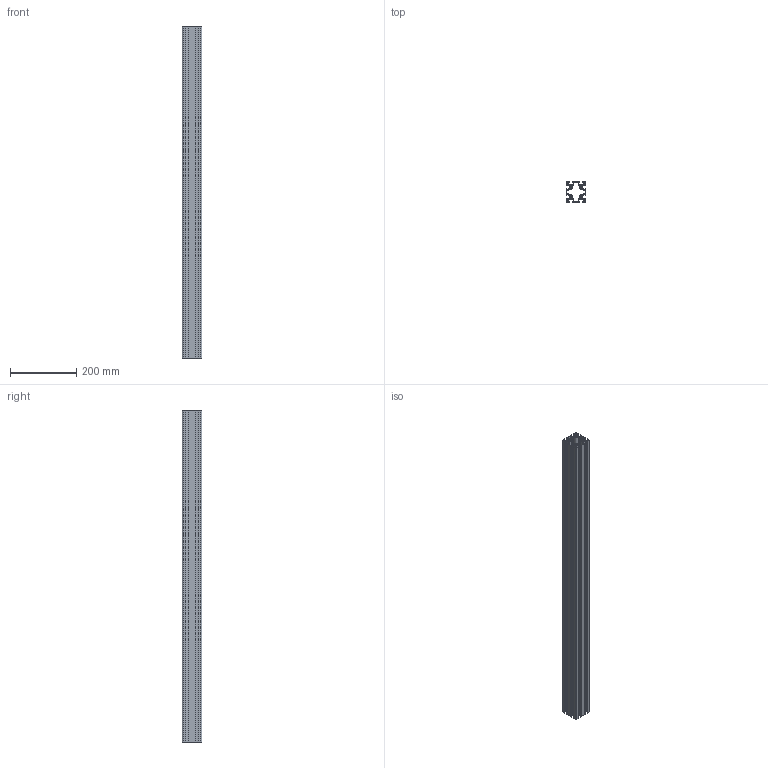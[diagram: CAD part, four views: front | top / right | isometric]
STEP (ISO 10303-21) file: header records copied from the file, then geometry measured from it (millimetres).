
FILE_DESCRIPTION (( 'STEP AP214' ), '1' );
FILE_NAME ('SA01005L.step', '2024-12-03T16:28:28', ( '' ), ( '' ), 'SwSTEP 2.0', 'SolidWorks 2023', '' );
FILE_SCHEMA (( 'AUTOMOTIVE_DESIGN' ));
Length unit declared in the file: millimetre
Products named in the file (1): SA01005L
Bounding box: 60 x 60 x 1000 mm (x, y, z)
Volume: 782422.7 mm3; surface area: 812043.8 mm2
Topology: 1 solids, 1 shells, 190 faces, 564 edges, 376 vertices
Faces by surface type: plane 98, cylinder 92
Full cylindrical faces by diameter (mm): 7.45 x4
Entity records: 6451 total; most frequent: CARTESIAN_POINT 1127, DIRECTION 1126, ORIENTED_EDGE 1120, EDGE_CURVE 560, VERTEX_POINT 376, LINE 376, VECTOR 376, AXIS2_PLACEMENT_3D 375
